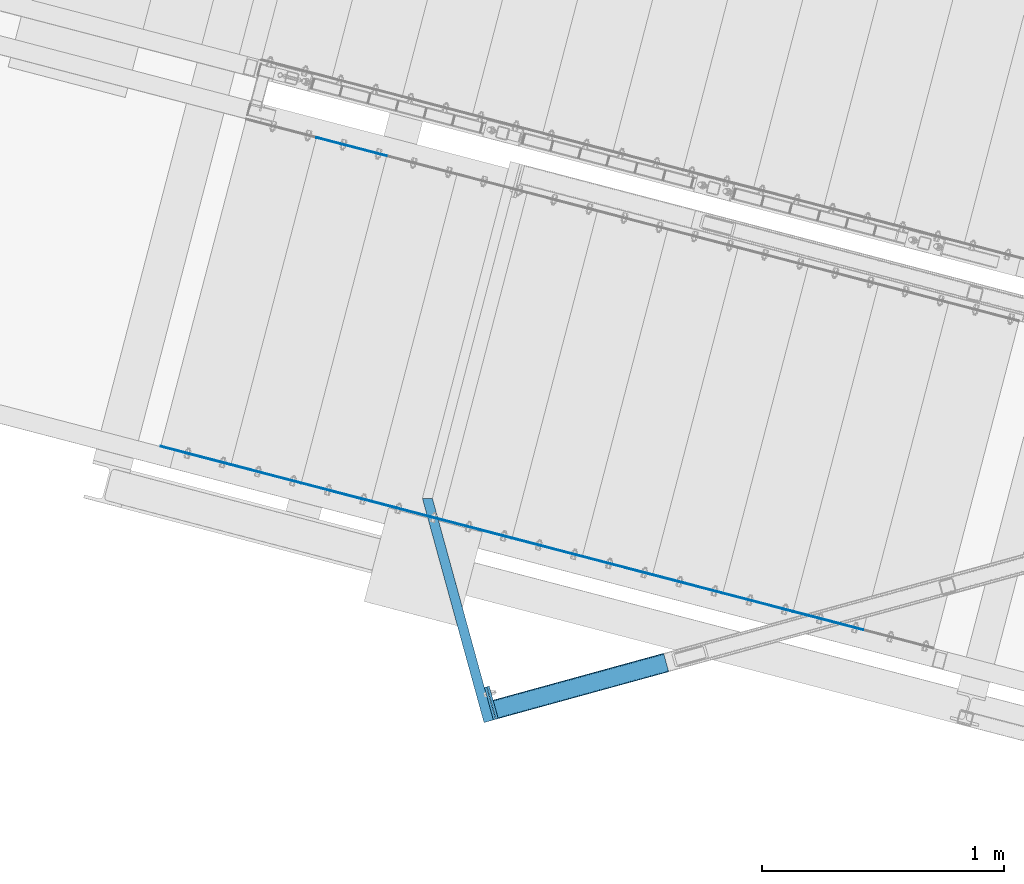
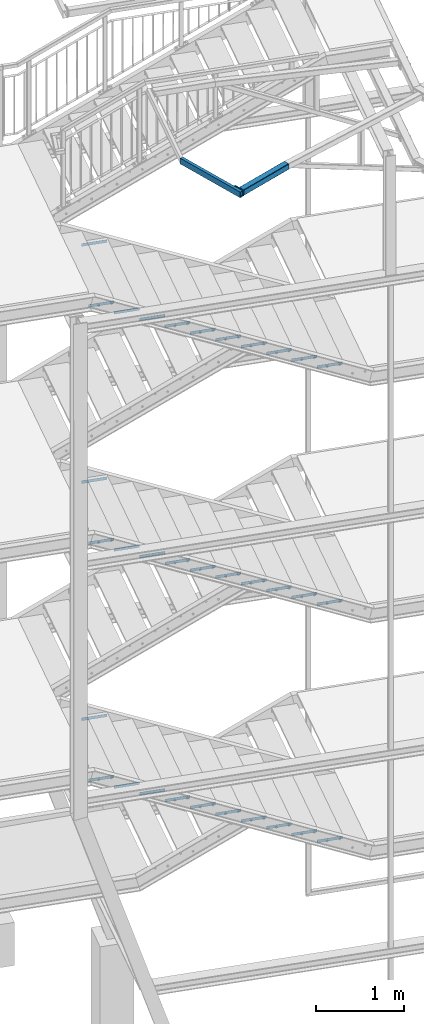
# One storey, part 64 of 169: 37 discrete accessories, 32 elements without a shape of their own.
"""IFC2X3 building model written with IfcOpenShell, lengths in millimetres."""

from ifc_helpers import new_model, si_unit, frame, origin_with_axes, origin_2d_with_axis, place, context, subcontext, project, spatial, polyline, rectangle, hollow_rectangle, u_section, outline, extrude, clip, halfspace, material, type_object, element, aggregate, save


model = new_model("IFC2X3")

# Units and contexts
model_context = context("Model", 3, precision=1e-05, world=origin_with_axes())
body_context = subcontext(model_context, "Body", "Model", "MODEL_VIEW")
ifc_project = project(units=[si_unit("LENGTHUNIT", "METRE", prefix="MILLI"), si_unit("AREAUNIT", "SQUARE_METRE"), si_unit("VOLUMEUNIT", "CUBIC_METRE"), si_unit("MASSUNIT", "GRAM", prefix="KILO"), si_unit("TIMEUNIT", "SECOND"), si_unit("PLANEANGLEUNIT", "RADIAN"), si_unit("SOLIDANGLEUNIT", "STERADIAN"), si_unit("THERMODYNAMICTEMPERATUREUNIT", "DEGREE_CELSIUS"), si_unit("LUMINOUSINTENSITYUNIT", "LUMEN")], contexts=[model_context])

# Site, building, storey
site_placement = place(None, origin_with_axes())
site = spatial("IfcSite", under=ifc_project, at=site_placement, Name="Undefined", CompositionType="ELEMENT")
building_placement = place(site_placement, origin_with_axes())
building = spatial("IfcBuilding", under=site, at=building_placement, Name="Undefined", CompositionType="ELEMENT")
storey_placement = place(building_placement, origin_with_axes())
storey = spatial("IfcBuildingStorey", under=building, at=storey_placement, Name="Undefined", CompositionType="ELEMENT", Elevation=0.0)

# Assembly, discrete accessory
assembly_1_placement = place(storey_placement, origin_with_axes())
assembly_1 = element("IfcElementAssembly", 1, at=assembly_1_placement, inside=storey, Name="Steel Assembly", AssemblyPlace="NOTDEFINED", PredefinedType="RIGID_FRAME")
ifc_material_1 = material(Name="STEEL/S235")
discrete_accessory_type_1 = type_object("IfcDiscreteAccessoryType", Name="BLACHA")
discrete_accessory_1_placement = place(assembly_1_placement, frame((-26964.947239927, 4755.64829046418, 13909.2490473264), z_axis=(0.964246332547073, 0.265007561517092, 5.00827654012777e-05), x_axis=(-1.20319999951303e-05, -0.000145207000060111, 0.999999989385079)))
discrete_accessory_1 = element("IfcDiscreteAccessory", 2, at=discrete_accessory_1_placement, type_object=discrete_accessory_type_1, material=ifc_material_1, Name="BLACHA", ObjectType="BL10*140", context=body_context, shape_type="SweptSolid", body=[
    extrude(outline(polyline([(-1.4915713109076e-10, -69.9999999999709), (1.4915713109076e-10, 69.9999999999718), (79.9999999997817, 69.999999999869), (79.9999999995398, -70.00000000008), (-1.4915713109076e-10, -69.9999999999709)])), frame((-1.81898926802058e-12, -1.18000176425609e-16, -5.00000000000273), z_axis=(0.0, 0.0, 1.0), x_axis=(1.0, 0.0, 0.0)), (0.0, 0.0, 1.0), 10.0),
])

assembly_2_placement = place(storey_placement, origin_with_axes())
assembly_2 = element("IfcElementAssembly", 3, at=assembly_2_placement, inside=storey, Name="Steel Assembly", AssemblyPlace="NOTDEFINED", PredefinedType="RIGID_FRAME")
discrete_accessory_2_placement = place(assembly_2_placement, frame((-26975.5539495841, 4752.7332072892, 13909.2484956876), z_axis=(0.964246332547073, 0.265007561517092, 5.00827654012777e-05), x_axis=(-1.20319999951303e-05, -0.000145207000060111, 0.999999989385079)))
discrete_accessory_2 = element("IfcDiscreteAccessory", 4, at=discrete_accessory_2_placement, type_object=discrete_accessory_type_1, material=ifc_material_1, Name="BLACHA", ObjectType="BL10*140", context=body_context, shape_type="SweptSolid", body=[
    extrude(outline(polyline([(-1.4915713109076e-10, -69.9999999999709), (1.4915713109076e-10, 69.9999999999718), (79.9999999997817, 69.999999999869), (79.9999999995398, -70.00000000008), (-1.4915713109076e-10, -69.9999999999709)])), frame((-1.81898926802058e-12, -1.18000176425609e-16, -5.00000000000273), z_axis=(0.0, 0.0, 1.0), x_axis=(1.0, 0.0, 0.0)), (0.0, 0.0, 1.0), 10.0),
])

# Discrete accessory
discrete_accessory_type_2 = type_object("IfcDiscreteAccessoryType", Name="BEAM")
discrete_accessory_3_placement = place(assembly_1_placement, frame((-26247.8276145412, 4921.62627957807, 13949.2817765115), z_axis=(1.20319999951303e-05, 0.000145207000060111, -0.999999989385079), x_axis=(-0.964243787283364, -0.265016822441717, -5.00832275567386e-05)))
discrete_accessory_3 = element("IfcDiscreteAccessory", 5, at=discrete_accessory_3_placement, type_object=discrete_accessory_type_2, material=ifc_material_1, Name="BEAM", ObjectType="SHS80*4", context=body_context, shape_type="Clipping", body=[
    clip(clip(extrude(hollow_rectangle(XDim=80.0, YDim=80.0, WallThickness=4.0, InnerFilletRadius=4.0, OuterFilletRadius=8.0, at=origin_2d_with_axis()), frame((730.467395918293, -1.72110001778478e-14, 0.0), z_axis=(-1.0, -3.46944695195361e-18, -1.38777878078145e-17), x_axis=(1.73472347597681e-18, -1.0, 0.0)), (0.0, 0.0, 1.0), 771.78), halfspace(frame((730.467395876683, -1.09175744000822e-08, 39.9999999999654), z_axis=(-0.999999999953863, -9.60590435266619e-06, -1.07975465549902e-09), x_axis=(9.60590435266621e-06, -0.999999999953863, -1.12995621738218e-11)), True)), halfspace(frame((1.02154190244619e-05, 0.00025891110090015, -40.0002588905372), z_axis=(-0.999688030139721, -1.62913579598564e-07, 0.0249768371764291), x_axis=(-1.25063525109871e-09, 0.999999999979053, 6.47253026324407e-06)), False)),
])

aggregate(assembly_1, [discrete_accessory_1, discrete_accessory_3])

discrete_accessory_4_placement = place(assembly_2_placement, frame((-27257.5071699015, 5684.29286532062, 13949.2372983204), z_axis=(8.00909999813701e-05, -0.000162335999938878, -0.999999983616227), x_axis=(0.265007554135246, -0.964246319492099, 0.000177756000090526)))
discrete_accessory_4 = element("IfcDiscreteAccessory", 6, at=discrete_accessory_4_placement, type_object=discrete_accessory_type_2, material=ifc_material_1, Name="BEAM", ObjectType="C80*40*3", context=body_context, shape_type="Clipping", body=[
    clip(extrude(u_section(Depth=80.0, FlangeWidth=40.0, WebThickness=3.0, FlangeThickness=3.0, FilletRadius=4.5, at=origin_2d_with_axis()), frame((1043.00000000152, 2.7272355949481e-14, 1.81898940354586e-12), z_axis=(-1.0, -3.46944695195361e-18, -1.38777878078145e-17), x_axis=(1.73472347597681e-18, -1.0, 0.0)), (0.0, 0.0, 1.0), 971.7), halfspace(frame((81.9620872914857, 20.0000000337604, -1.68129190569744e-08), z_axis=(-0.965924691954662, -0.258823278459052, 5.8598698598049e-10), x_axis=(0.0, 0.0, 1.0)), False)),
])

aggregate(assembly_2, [discrete_accessory_2, discrete_accessory_4])

# Assembly, discrete accessory
assembly_3_placement = place(storey_placement, origin_with_axes())
assembly_3 = element("IfcElementAssembly", 7, at=assembly_3_placement, inside=storey, Name="Steel Assembly", AssemblyPlace="NOTDEFINED", PredefinedType="RIGID_FRAME")
ifc_material_2 = material(Name="STEEL/S235JR")
discrete_accessory_type_3 = type_object("IfcDiscreteAccessoryType", Name="ANGLE")
discrete_accessory_5_placement = place(assembly_3_placement, frame((-28045.7217000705, 5739.08517223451, 12180.3215824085), z_axis=(0.252694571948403, 0.967546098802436, 0.0), x_axis=(-0.967546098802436, 0.252694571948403, 0.0)))
discrete_accessory_5 = element("IfcDiscreteAccessory", 8, at=discrete_accessory_5_placement, type_object=discrete_accessory_type_3, material=ifc_material_2, Name="ANGLE", ObjectType="3*40", context=body_context, shape_type="SweptSolid", body=[
    extrude(rectangle(XDim=40.0, YDim=3.0, at=origin_2d_with_axis()), frame((300.000000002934, 1.81898940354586e-12, -1.81898940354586e-12), z_axis=(-1.0, -3.46944695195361e-18, -1.38777878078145e-17), x_axis=(1.73472347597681e-18, -1.0, 0.0)), (0.0, 0.0, 1.0), 300.0),
])
aggregate(assembly_3, [discrete_accessory_5])

# Assembly, discrete accessories
assembly_4_placement = place(storey_placement, origin_with_axes())
assembly_4 = element("IfcElementAssembly", 9, at=assembly_4_placement, inside=storey, Name="Steel Assembly", AssemblyPlace="NOTDEFINED", PredefinedType="RIGID_FRAME")
discrete_accessory_6_placement = place(assembly_4_placement, frame((-27755.4578670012, 5663.27679988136, 12030.3215824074), z_axis=(0.252694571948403, 0.967546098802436, 0.0), x_axis=(-0.967546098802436, 0.252694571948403, 0.0)))
discrete_accessory_6 = element("IfcDiscreteAccessory", 10, at=discrete_accessory_6_placement, type_object=discrete_accessory_type_3, material=ifc_material_2, Name="ANGLE", ObjectType="3*40", context=body_context, shape_type="SweptSolid", body=[
    extrude(rectangle(XDim=40.0, YDim=3.0, at=origin_2d_with_axis()), frame((300.000000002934, 1.81898940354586e-12, -1.81898940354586e-12), z_axis=(-1.0, -3.46944695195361e-18, -1.38777878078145e-17), x_axis=(1.73472347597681e-18, -1.0, 0.0)), (0.0, 0.0, 1.0), 300.0),
])
discrete_accessory_7_placement = place(assembly_4_placement, frame((-27692.7073804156, 7090.74707073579, 12030.3215824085), z_axis=(-0.252694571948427, -0.96754609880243, 0.0), x_axis=(0.96754609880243, -0.252694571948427, 0.0)))
discrete_accessory_7 = element("IfcDiscreteAccessory", 11, at=discrete_accessory_7_placement, type_object=discrete_accessory_type_3, material=ifc_material_2, Name="ANGLE", ObjectType="3*40", context=body_context, shape_type="SweptSolid", body=[
    extrude(rectangle(XDim=40.0, YDim=3.0, at=origin_2d_with_axis()), frame((300.000000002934, 1.81898940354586e-12, -1.81898940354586e-12), z_axis=(-1.0, -3.46944695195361e-18, -1.38777878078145e-17), x_axis=(1.73472347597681e-18, -1.0, 0.0)), (0.0, 0.0, 1.0), 300.0),
])
aggregate(assembly_4, [discrete_accessory_6, discrete_accessory_7])

# Assembly, discrete accessory
assembly_5_placement = place(storey_placement, origin_with_axes())
assembly_5 = element("IfcElementAssembly", 12, at=assembly_5_placement, inside=storey, Name="Steel Assembly", AssemblyPlace="NOTDEFINED", PredefinedType="RIGID_FRAME")
discrete_accessory_8_placement = place(assembly_5_placement, frame((-27465.1940339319, 5587.46842752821, 11880.3215824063), z_axis=(0.252694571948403, 0.967546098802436, 0.0), x_axis=(-0.967546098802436, 0.252694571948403, 0.0)))
discrete_accessory_8 = element("IfcDiscreteAccessory", 13, at=discrete_accessory_8_placement, type_object=discrete_accessory_type_3, material=ifc_material_2, Name="ANGLE", ObjectType="3*40", context=body_context, shape_type="SweptSolid", body=[
    extrude(rectangle(XDim=40.0, YDim=3.0, at=origin_2d_with_axis()), frame((300.000000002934, 1.81898940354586e-12, -1.81898940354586e-12), z_axis=(-1.0, -3.46944695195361e-18, -1.38777878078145e-17), x_axis=(1.73472347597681e-18, -1.0, 0.0)), (0.0, 0.0, 1.0), 300.0),
])
aggregate(assembly_5, [discrete_accessory_8])

assembly_6_placement = place(storey_placement, origin_with_axes())
assembly_6 = element("IfcElementAssembly", 14, at=assembly_6_placement, inside=storey, Name="Steel Assembly", AssemblyPlace="NOTDEFINED", PredefinedType="RIGID_FRAME")
discrete_accessory_9_placement = place(assembly_6_placement, frame((-27174.9302008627, 5511.66005517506, 11730.3215824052), z_axis=(0.252694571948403, 0.967546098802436, 0.0), x_axis=(-0.967546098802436, 0.252694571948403, 0.0)))
discrete_accessory_9 = element("IfcDiscreteAccessory", 15, at=discrete_accessory_9_placement, type_object=discrete_accessory_type_3, material=ifc_material_2, Name="ANGLE", ObjectType="3*40", context=body_context, shape_type="SweptSolid", body=[
    extrude(rectangle(XDim=40.0, YDim=3.0, at=origin_2d_with_axis()), frame((300.000000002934, 1.81898940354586e-12, -1.81898940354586e-12), z_axis=(-1.0, -3.46944695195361e-18, -1.38777878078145e-17), x_axis=(1.73472347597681e-18, -1.0, 0.0)), (0.0, 0.0, 1.0), 300.0),
])
aggregate(assembly_6, [discrete_accessory_9])

assembly_7_placement = place(storey_placement, origin_with_axes())
assembly_7 = element("IfcElementAssembly", 16, at=assembly_7_placement, inside=storey, Name="Steel Assembly", AssemblyPlace="NOTDEFINED", PredefinedType="RIGID_FRAME")
discrete_accessory_10_placement = place(assembly_7_placement, frame((-26884.6663677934, 5435.85168282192, 11580.3215824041), z_axis=(0.252694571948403, 0.967546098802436, 0.0), x_axis=(-0.967546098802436, 0.252694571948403, 0.0)))
discrete_accessory_10 = element("IfcDiscreteAccessory", 17, at=discrete_accessory_10_placement, type_object=discrete_accessory_type_3, material=ifc_material_2, Name="ANGLE", ObjectType="3*40", context=body_context, shape_type="SweptSolid", body=[
    extrude(rectangle(XDim=40.0, YDim=3.0, at=origin_2d_with_axis()), frame((300.000000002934, 1.81898940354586e-12, -1.81898940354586e-12), z_axis=(-1.0, -3.46944695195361e-18, -1.38777878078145e-17), x_axis=(1.73472347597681e-18, -1.0, 0.0)), (0.0, 0.0, 1.0), 300.0),
])
aggregate(assembly_7, [discrete_accessory_10])

assembly_8_placement = place(storey_placement, origin_with_axes())
assembly_8 = element("IfcElementAssembly", 18, at=assembly_8_placement, inside=storey, Name="Steel Assembly", AssemblyPlace="NOTDEFINED", PredefinedType="RIGID_FRAME")
discrete_accessory_11_placement = place(assembly_8_placement, frame((-26594.4025347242, 5360.04331046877, 11430.3215824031), z_axis=(0.252694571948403, 0.967546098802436, 0.0), x_axis=(-0.967546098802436, 0.252694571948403, 0.0)))
discrete_accessory_11 = element("IfcDiscreteAccessory", 19, at=discrete_accessory_11_placement, type_object=discrete_accessory_type_3, material=ifc_material_2, Name="ANGLE", ObjectType="3*40", context=body_context, shape_type="SweptSolid", body=[
    extrude(rectangle(XDim=40.0, YDim=3.0, at=origin_2d_with_axis()), frame((300.000000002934, 1.81898940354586e-12, -1.81898940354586e-12), z_axis=(-1.0, -3.46944695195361e-18, -1.38777878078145e-17), x_axis=(1.73472347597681e-18, -1.0, 0.0)), (0.0, 0.0, 1.0), 300.0),
])
aggregate(assembly_8, [discrete_accessory_11])

assembly_9_placement = place(storey_placement, origin_with_axes())
assembly_9 = element("IfcElementAssembly", 20, at=assembly_9_placement, inside=storey, Name="Steel Assembly", AssemblyPlace="NOTDEFINED", PredefinedType="RIGID_FRAME")
discrete_accessory_12_placement = place(assembly_9_placement, frame((-26304.1387016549, 5284.23493811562, 11280.321582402), z_axis=(0.252694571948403, 0.967546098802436, 0.0), x_axis=(-0.967546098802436, 0.252694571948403, 0.0)))
discrete_accessory_12 = element("IfcDiscreteAccessory", 21, at=discrete_accessory_12_placement, type_object=discrete_accessory_type_3, material=ifc_material_2, Name="ANGLE", ObjectType="3*40", context=body_context, shape_type="SweptSolid", body=[
    extrude(rectangle(XDim=40.0, YDim=3.0, at=origin_2d_with_axis()), frame((300.000000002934, 1.81898940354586e-12, -1.81898940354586e-12), z_axis=(-1.0, -3.46944695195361e-18, -1.38777878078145e-17), x_axis=(1.73472347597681e-18, -1.0, 0.0)), (0.0, 0.0, 1.0), 300.0),
])
aggregate(assembly_9, [discrete_accessory_12])

assembly_10_placement = place(storey_placement, origin_with_axes())
assembly_10 = element("IfcElementAssembly", 22, at=assembly_10_placement, inside=storey, Name="Steel Assembly", AssemblyPlace="NOTDEFINED", PredefinedType="RIGID_FRAME")
discrete_accessory_13_placement = place(assembly_10_placement, frame((-26013.8748685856, 5208.42656576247, 11130.3215824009), z_axis=(0.252694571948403, 0.967546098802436, 0.0), x_axis=(-0.967546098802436, 0.252694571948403, 0.0)))
discrete_accessory_13 = element("IfcDiscreteAccessory", 23, at=discrete_accessory_13_placement, type_object=discrete_accessory_type_3, material=ifc_material_2, Name="ANGLE", ObjectType="3*40", context=body_context, shape_type="SweptSolid", body=[
    extrude(rectangle(XDim=40.0, YDim=3.0, at=origin_2d_with_axis()), frame((300.000000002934, 1.81898940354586e-12, -1.81898940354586e-12), z_axis=(-1.0, -3.46944695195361e-18, -1.38777878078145e-17), x_axis=(1.73472347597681e-18, -1.0, 0.0)), (0.0, 0.0, 1.0), 300.0),
])
aggregate(assembly_10, [discrete_accessory_13])

assembly_11_placement = place(storey_placement, origin_with_axes())
assembly_11 = element("IfcElementAssembly", 24, at=assembly_11_placement, inside=storey, Name="Steel Assembly", AssemblyPlace="NOTDEFINED", PredefinedType="RIGID_FRAME")
discrete_accessory_14_placement = place(assembly_11_placement, frame((-25723.6110355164, 5132.61819340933, 10980.3215823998), z_axis=(0.252694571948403, 0.967546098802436, 0.0), x_axis=(-0.967546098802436, 0.252694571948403, 0.0)))
discrete_accessory_14 = element("IfcDiscreteAccessory", 25, at=discrete_accessory_14_placement, type_object=discrete_accessory_type_3, material=ifc_material_2, Name="ANGLE", ObjectType="3*40", context=body_context, shape_type="SweptSolid", body=[
    extrude(rectangle(XDim=40.0, YDim=3.0, at=origin_2d_with_axis()), frame((300.000000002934, 1.81898940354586e-12, -1.81898940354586e-12), z_axis=(-1.0, -3.46944695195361e-18, -1.38777878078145e-17), x_axis=(1.73472347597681e-18, -1.0, 0.0)), (0.0, 0.0, 1.0), 300.0),
])
aggregate(assembly_11, [discrete_accessory_14])

assembly_12_placement = place(storey_placement, origin_with_axes())
assembly_12 = element("IfcElementAssembly", 26, at=assembly_12_placement, inside=storey, Name="Steel Assembly", AssemblyPlace="NOTDEFINED", PredefinedType="RIGID_FRAME")
discrete_accessory_15_placement = place(assembly_12_placement, frame((-25433.3472024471, 5056.80982105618, 10830.3215823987), z_axis=(0.252694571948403, 0.967546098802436, 0.0), x_axis=(-0.967546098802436, 0.252694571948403, 0.0)))
discrete_accessory_15 = element("IfcDiscreteAccessory", 27, at=discrete_accessory_15_placement, type_object=discrete_accessory_type_3, material=ifc_material_2, Name="ANGLE", ObjectType="3*40", context=body_context, shape_type="SweptSolid", body=[
    extrude(rectangle(XDim=40.0, YDim=3.0, at=origin_2d_with_axis()), frame((300.000000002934, 1.81898940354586e-12, -1.81898940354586e-12), z_axis=(-1.0, -3.46944695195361e-18, -1.38777878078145e-17), x_axis=(1.73472347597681e-18, -1.0, 0.0)), (0.0, 0.0, 1.0), 300.0),
])
aggregate(assembly_12, [discrete_accessory_15])

assembly_13_placement = place(storey_placement, origin_with_axes())
assembly_13 = element("IfcElementAssembly", 28, at=assembly_13_placement, inside=storey, Name="Steel Assembly", AssemblyPlace="NOTDEFINED", PredefinedType="RIGID_FRAME")
discrete_accessory_16_placement = place(assembly_13_placement, frame((-28045.8357774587, 5738.64825725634, 8880.3216133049), z_axis=(0.252694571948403, 0.967546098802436, 0.0), x_axis=(-0.967546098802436, 0.252694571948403, 0.0)))
discrete_accessory_16 = element("IfcDiscreteAccessory", 29, at=discrete_accessory_16_placement, type_object=discrete_accessory_type_3, material=ifc_material_2, Name="ANGLE", ObjectType="3*40", context=body_context, shape_type="SweptSolid", body=[
    extrude(rectangle(XDim=40.0, YDim=3.0, at=origin_2d_with_axis()), frame((300.000000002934, 1.81898940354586e-12, -1.81898940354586e-12), z_axis=(-1.0, -3.46944695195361e-18, -1.38777878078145e-17), x_axis=(1.73472347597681e-18, -1.0, 0.0)), (0.0, 0.0, 1.0), 300.0),
])
aggregate(assembly_13, [discrete_accessory_16])

# Assembly, discrete accessories
assembly_14_placement = place(storey_placement, origin_with_axes())
assembly_14 = element("IfcElementAssembly", 30, at=assembly_14_placement, inside=storey, Name="Steel Assembly", AssemblyPlace="NOTDEFINED", PredefinedType="RIGID_FRAME")
discrete_accessory_17_placement = place(assembly_14_placement, frame((-27755.5719443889, 5662.83988490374, 8730.32161330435), z_axis=(0.252694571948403, 0.967546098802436, 0.0), x_axis=(-0.967546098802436, 0.252694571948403, 0.0)))
discrete_accessory_17 = element("IfcDiscreteAccessory", 31, at=discrete_accessory_17_placement, type_object=discrete_accessory_type_3, material=ifc_material_2, Name="ANGLE", ObjectType="3*40", context=body_context, shape_type="SweptSolid", body=[
    extrude(rectangle(XDim=40.0, YDim=3.0, at=origin_2d_with_axis()), frame((300.000000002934, 1.81898940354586e-12, -1.81898940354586e-12), z_axis=(-1.0, -3.46944695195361e-18, -1.38777878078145e-17), x_axis=(1.73472347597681e-18, -1.0, 0.0)), (0.0, 0.0, 1.0), 300.0),
])
discrete_accessory_18_placement = place(assembly_14_placement, frame((-27692.8214578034, 7090.31015577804, 8730.32161330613), z_axis=(-0.252694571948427, -0.96754609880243, 0.0), x_axis=(0.96754609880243, -0.252694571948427, 0.0)))
discrete_accessory_18 = element("IfcDiscreteAccessory", 32, at=discrete_accessory_18_placement, type_object=discrete_accessory_type_3, material=ifc_material_2, Name="ANGLE", ObjectType="3*40", context=body_context, shape_type="SweptSolid", body=[
    extrude(rectangle(XDim=40.0, YDim=3.0, at=origin_2d_with_axis()), frame((300.000000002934, 1.81898940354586e-12, -1.81898940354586e-12), z_axis=(-1.0, -3.46944695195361e-18, -1.38777878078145e-17), x_axis=(1.73472347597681e-18, -1.0, 0.0)), (0.0, 0.0, 1.0), 300.0),
])
aggregate(assembly_14, [discrete_accessory_17, discrete_accessory_18])

# Assembly, discrete accessory
assembly_15_placement = place(storey_placement, origin_with_axes())
assembly_15 = element("IfcElementAssembly", 33, at=assembly_15_placement, inside=storey, Name="Steel Assembly", AssemblyPlace="NOTDEFINED", PredefinedType="RIGID_FRAME")
discrete_accessory_19_placement = place(assembly_15_placement, frame((-27465.3081113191, 5587.03151255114, 8580.32161330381), z_axis=(0.252694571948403, 0.967546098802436, 0.0), x_axis=(-0.967546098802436, 0.252694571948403, 0.0)))
discrete_accessory_19 = element("IfcDiscreteAccessory", 34, at=discrete_accessory_19_placement, type_object=discrete_accessory_type_3, material=ifc_material_2, Name="ANGLE", ObjectType="3*40", context=body_context, shape_type="SweptSolid", body=[
    extrude(rectangle(XDim=40.0, YDim=3.0, at=origin_2d_with_axis()), frame((300.000000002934, 1.81898940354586e-12, -1.81898940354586e-12), z_axis=(-1.0, -3.46944695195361e-18, -1.38777878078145e-17), x_axis=(1.73472347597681e-18, -1.0, 0.0)), (0.0, 0.0, 1.0), 300.0),
])
aggregate(assembly_15, [discrete_accessory_19])

assembly_16_placement = place(storey_placement, origin_with_axes())
assembly_16 = element("IfcElementAssembly", 35, at=assembly_16_placement, inside=storey, Name="Steel Assembly", AssemblyPlace="NOTDEFINED", PredefinedType="RIGID_FRAME")
discrete_accessory_20_placement = place(assembly_16_placement, frame((-27175.0442782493, 5511.22314019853, 8430.32161330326), z_axis=(0.252694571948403, 0.967546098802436, 0.0), x_axis=(-0.967546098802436, 0.252694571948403, 0.0)))
discrete_accessory_20 = element("IfcDiscreteAccessory", 36, at=discrete_accessory_20_placement, type_object=discrete_accessory_type_3, material=ifc_material_2, Name="ANGLE", ObjectType="3*40", context=body_context, shape_type="SweptSolid", body=[
    extrude(rectangle(XDim=40.0, YDim=3.0, at=origin_2d_with_axis()), frame((300.000000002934, 1.81898940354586e-12, -1.81898940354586e-12), z_axis=(-1.0, -3.46944695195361e-18, -1.38777878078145e-17), x_axis=(1.73472347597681e-18, -1.0, 0.0)), (0.0, 0.0, 1.0), 300.0),
])
aggregate(assembly_16, [discrete_accessory_20])

assembly_17_placement = place(storey_placement, origin_with_axes())
assembly_17 = element("IfcElementAssembly", 37, at=assembly_17_placement, inside=storey, Name="Steel Assembly", AssemblyPlace="NOTDEFINED", PredefinedType="RIGID_FRAME")
discrete_accessory_21_placement = place(assembly_17_placement, frame((-26884.7804451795, 5435.41476784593, 8280.32161330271), z_axis=(0.252694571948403, 0.967546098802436, 0.0), x_axis=(-0.967546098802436, 0.252694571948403, 0.0)))
discrete_accessory_21 = element("IfcDiscreteAccessory", 38, at=discrete_accessory_21_placement, type_object=discrete_accessory_type_3, material=ifc_material_2, Name="ANGLE", ObjectType="3*40", context=body_context, shape_type="SweptSolid", body=[
    extrude(rectangle(XDim=40.0, YDim=3.0, at=origin_2d_with_axis()), frame((300.000000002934, 1.81898940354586e-12, -1.81898940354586e-12), z_axis=(-1.0, -3.46944695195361e-18, -1.38777878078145e-17), x_axis=(1.73472347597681e-18, -1.0, 0.0)), (0.0, 0.0, 1.0), 300.0),
])
aggregate(assembly_17, [discrete_accessory_21])

assembly_18_placement = place(storey_placement, origin_with_axes())
assembly_18 = element("IfcElementAssembly", 39, at=assembly_18_placement, inside=storey, Name="Steel Assembly", AssemblyPlace="NOTDEFINED", PredefinedType="RIGID_FRAME")
discrete_accessory_22_placement = place(assembly_18_placement, frame((-26594.5166121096, 5359.60639549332, 8130.32161330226), z_axis=(0.252694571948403, 0.967546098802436, 0.0), x_axis=(-0.967546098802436, 0.252694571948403, 0.0)))
discrete_accessory_22 = element("IfcDiscreteAccessory", 40, at=discrete_accessory_22_placement, type_object=discrete_accessory_type_3, material=ifc_material_2, Name="ANGLE", ObjectType="3*40", context=body_context, shape_type="SweptSolid", body=[
    extrude(rectangle(XDim=40.0, YDim=3.0, at=origin_2d_with_axis()), frame((300.000000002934, 1.81898940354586e-12, -1.81898940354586e-12), z_axis=(-1.0, -3.46944695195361e-18, -1.38777878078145e-17), x_axis=(1.73472347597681e-18, -1.0, 0.0)), (0.0, 0.0, 1.0), 300.0),
])
aggregate(assembly_18, [discrete_accessory_22])

assembly_19_placement = place(storey_placement, origin_with_axes())
assembly_19 = element("IfcElementAssembly", 41, at=assembly_19_placement, inside=storey, Name="Steel Assembly", AssemblyPlace="NOTDEFINED", PredefinedType="RIGID_FRAME")
discrete_accessory_23_placement = place(assembly_19_placement, frame((-26304.2527790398, 5283.79802314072, 7980.32161330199), z_axis=(0.252694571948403, 0.967546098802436, 0.0), x_axis=(-0.967546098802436, 0.252694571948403, 0.0)))
discrete_accessory_23 = element("IfcDiscreteAccessory", 42, at=discrete_accessory_23_placement, type_object=discrete_accessory_type_3, material=ifc_material_2, Name="ANGLE", ObjectType="3*40", context=body_context, shape_type="SweptSolid", body=[
    extrude(rectangle(XDim=40.0, YDim=3.0, at=origin_2d_with_axis()), frame((300.000000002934, 1.81898940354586e-12, -1.81898940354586e-12), z_axis=(-1.0, -3.46944695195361e-18, -1.38777878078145e-17), x_axis=(1.73472347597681e-18, -1.0, 0.0)), (0.0, 0.0, 1.0), 300.0),
])
aggregate(assembly_19, [discrete_accessory_23])

assembly_20_placement = place(storey_placement, origin_with_axes())
assembly_20 = element("IfcElementAssembly", 43, at=assembly_20_placement, inside=storey, Name="Steel Assembly", AssemblyPlace="NOTDEFINED", PredefinedType="RIGID_FRAME")
discrete_accessory_24_placement = place(assembly_20_placement, frame((-26013.98894597, 5207.98965078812, 7830.32161330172), z_axis=(0.252694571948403, 0.967546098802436, 0.0), x_axis=(-0.967546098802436, 0.252694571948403, 0.0)))
discrete_accessory_24 = element("IfcDiscreteAccessory", 44, at=discrete_accessory_24_placement, type_object=discrete_accessory_type_3, material=ifc_material_2, Name="ANGLE", ObjectType="3*40", context=body_context, shape_type="SweptSolid", body=[
    extrude(rectangle(XDim=40.0, YDim=3.0, at=origin_2d_with_axis()), frame((300.000000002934, 1.81898940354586e-12, -1.81898940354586e-12), z_axis=(-1.0, -3.46944695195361e-18, -1.38777878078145e-17), x_axis=(1.73472347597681e-18, -1.0, 0.0)), (0.0, 0.0, 1.0), 300.0),
])
aggregate(assembly_20, [discrete_accessory_24])

assembly_21_placement = place(storey_placement, origin_with_axes())
assembly_21 = element("IfcElementAssembly", 45, at=assembly_21_placement, inside=storey, Name="Steel Assembly", AssemblyPlace="NOTDEFINED", PredefinedType="RIGID_FRAME")
discrete_accessory_25_placement = place(assembly_21_placement, frame((-25723.7251129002, 5132.18127843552, 7680.32161330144), z_axis=(0.252694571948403, 0.967546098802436, 0.0), x_axis=(-0.967546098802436, 0.252694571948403, 0.0)))
discrete_accessory_25 = element("IfcDiscreteAccessory", 46, at=discrete_accessory_25_placement, type_object=discrete_accessory_type_3, material=ifc_material_2, Name="ANGLE", ObjectType="3*40", context=body_context, shape_type="SweptSolid", body=[
    extrude(rectangle(XDim=40.0, YDim=3.0, at=origin_2d_with_axis()), frame((300.000000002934, 1.81898940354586e-12, -1.81898940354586e-12), z_axis=(-1.0, -3.46944695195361e-18, -1.38777878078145e-17), x_axis=(1.73472347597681e-18, -1.0, 0.0)), (0.0, 0.0, 1.0), 300.0),
])
aggregate(assembly_21, [discrete_accessory_25])

assembly_22_placement = place(storey_placement, origin_with_axes())
assembly_22 = element("IfcElementAssembly", 47, at=assembly_22_placement, inside=storey, Name="Steel Assembly", AssemblyPlace="NOTDEFINED", PredefinedType="RIGID_FRAME")
discrete_accessory_26_placement = place(assembly_22_placement, frame((-25433.4612798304, 5056.37290608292, 7530.32161330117), z_axis=(0.252694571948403, 0.967546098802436, 0.0), x_axis=(-0.967546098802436, 0.252694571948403, 0.0)))
discrete_accessory_26 = element("IfcDiscreteAccessory", 48, at=discrete_accessory_26_placement, type_object=discrete_accessory_type_3, material=ifc_material_2, Name="ANGLE", ObjectType="3*40", context=body_context, shape_type="SweptSolid", body=[
    extrude(rectangle(XDim=40.0, YDim=3.0, at=origin_2d_with_axis()), frame((300.000000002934, 1.81898940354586e-12, -1.81898940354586e-12), z_axis=(-1.0, -3.46944695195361e-18, -1.38777878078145e-17), x_axis=(1.73472347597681e-18, -1.0, 0.0)), (0.0, 0.0, 1.0), 300.0),
])
aggregate(assembly_22, [discrete_accessory_26])

assembly_23_placement = place(storey_placement, origin_with_axes())
assembly_23 = element("IfcElementAssembly", 49, at=assembly_23_placement, inside=storey, Name="Steel Assembly", AssemblyPlace="NOTDEFINED", PredefinedType="RIGID_FRAME")
discrete_accessory_27_placement = place(assembly_23_placement, frame((-28045.9498548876, 5738.21134233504, 5580.32164420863), z_axis=(0.252694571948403, 0.967546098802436, 0.0), x_axis=(-0.967546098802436, 0.252694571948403, 0.0)))
discrete_accessory_27 = element("IfcDiscreteAccessory", 50, at=discrete_accessory_27_placement, type_object=discrete_accessory_type_3, material=ifc_material_2, Name="ANGLE", ObjectType="3*40", context=body_context, shape_type="SweptSolid", body=[
    extrude(rectangle(XDim=40.0, YDim=3.0, at=origin_2d_with_axis()), frame((300.000000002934, 1.81898940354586e-12, -1.81898940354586e-12), z_axis=(-1.0, -3.46944695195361e-18, -1.38777878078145e-17), x_axis=(1.73472347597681e-18, -1.0, 0.0)), (0.0, 0.0, 1.0), 300.0),
])
aggregate(assembly_23, [discrete_accessory_27])

# Assembly, discrete accessories
assembly_24_placement = place(storey_placement, origin_with_axes())
assembly_24 = element("IfcElementAssembly", 51, at=assembly_24_placement, inside=storey, Name="Steel Assembly", AssemblyPlace="NOTDEFINED", PredefinedType="RIGID_FRAME")
discrete_accessory_28_placement = place(assembly_24_placement, frame((-27755.686021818, 5662.40296998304, 5430.32164420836), z_axis=(0.252694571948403, 0.967546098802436, 0.0), x_axis=(-0.967546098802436, 0.252694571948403, 0.0)))
discrete_accessory_28 = element("IfcDiscreteAccessory", 52, at=discrete_accessory_28_placement, type_object=discrete_accessory_type_3, material=ifc_material_2, Name="ANGLE", ObjectType="3*40", context=body_context, shape_type="SweptSolid", body=[
    extrude(rectangle(XDim=40.0, YDim=3.0, at=origin_2d_with_axis()), frame((300.000000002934, 1.81898940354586e-12, -1.81898940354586e-12), z_axis=(-1.0, -3.46944695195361e-18, -1.38777878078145e-17), x_axis=(1.73472347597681e-18, -1.0, 0.0)), (0.0, 0.0, 1.0), 300.0),
])
discrete_accessory_29_placement = place(assembly_24_placement, frame((-27692.935535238, 7089.87324083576, 5430.32164420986), z_axis=(-0.252694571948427, -0.96754609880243, 0.0), x_axis=(0.96754609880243, -0.252694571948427, 0.0)))
discrete_accessory_29 = element("IfcDiscreteAccessory", 53, at=discrete_accessory_29_placement, type_object=discrete_accessory_type_3, material=ifc_material_2, Name="ANGLE", ObjectType="3*40", context=body_context, shape_type="SweptSolid", body=[
    extrude(rectangle(XDim=40.0, YDim=3.0, at=origin_2d_with_axis()), frame((300.000000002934, 1.81898940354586e-12, -1.81898940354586e-12), z_axis=(-1.0, -3.46944695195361e-18, -1.38777878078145e-17), x_axis=(1.73472347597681e-18, -1.0, 0.0)), (0.0, 0.0, 1.0), 300.0),
])
aggregate(assembly_24, [discrete_accessory_28, discrete_accessory_29])

# Assembly, discrete accessory
assembly_25_placement = place(storey_placement, origin_with_axes())
assembly_25 = element("IfcElementAssembly", 54, at=assembly_25_placement, inside=storey, Name="Steel Assembly", AssemblyPlace="NOTDEFINED", PredefinedType="RIGID_FRAME")
discrete_accessory_30_placement = place(assembly_25_placement, frame((-27465.4221887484, 5586.59459763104, 5280.32164420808), z_axis=(0.252694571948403, 0.967546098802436, 0.0), x_axis=(-0.967546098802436, 0.252694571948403, 0.0)))
discrete_accessory_30 = element("IfcDiscreteAccessory", 55, at=discrete_accessory_30_placement, type_object=discrete_accessory_type_3, material=ifc_material_2, Name="ANGLE", ObjectType="3*40", context=body_context, shape_type="SweptSolid", body=[
    extrude(rectangle(XDim=40.0, YDim=3.0, at=origin_2d_with_axis()), frame((300.000000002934, 1.81898940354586e-12, -1.81898940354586e-12), z_axis=(-1.0, -3.46944695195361e-18, -1.38777878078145e-17), x_axis=(1.73472347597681e-18, -1.0, 0.0)), (0.0, 0.0, 1.0), 300.0),
])
aggregate(assembly_25, [discrete_accessory_30])

assembly_26_placement = place(storey_placement, origin_with_axes())
assembly_26 = element("IfcElementAssembly", 56, at=assembly_26_placement, inside=storey, Name="Steel Assembly", AssemblyPlace="NOTDEFINED", PredefinedType="RIGID_FRAME")
discrete_accessory_31_placement = place(assembly_26_placement, frame((-27175.1583556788, 5510.78622527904, 5130.32164420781), z_axis=(0.252694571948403, 0.967546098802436, 0.0), x_axis=(-0.967546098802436, 0.252694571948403, 0.0)))
discrete_accessory_31 = element("IfcDiscreteAccessory", 57, at=discrete_accessory_31_placement, type_object=discrete_accessory_type_3, material=ifc_material_2, Name="ANGLE", ObjectType="3*40", context=body_context, shape_type="SweptSolid", body=[
    extrude(rectangle(XDim=40.0, YDim=3.0, at=origin_2d_with_axis()), frame((300.000000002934, 1.81898940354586e-12, -1.81898940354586e-12), z_axis=(-1.0, -3.46944695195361e-18, -1.38777878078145e-17), x_axis=(1.73472347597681e-18, -1.0, 0.0)), (0.0, 0.0, 1.0), 300.0),
])
aggregate(assembly_26, [discrete_accessory_31])

assembly_27_placement = place(storey_placement, origin_with_axes())
assembly_27 = element("IfcElementAssembly", 58, at=assembly_27_placement, inside=storey, Name="Steel Assembly", AssemblyPlace="NOTDEFINED", PredefinedType="RIGID_FRAME")
discrete_accessory_32_placement = place(assembly_27_placement, frame((-26884.8945226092, 5434.97785292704, 4980.32164420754), z_axis=(0.252694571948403, 0.967546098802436, 0.0), x_axis=(-0.967546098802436, 0.252694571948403, 0.0)))
discrete_accessory_32 = element("IfcDiscreteAccessory", 59, at=discrete_accessory_32_placement, type_object=discrete_accessory_type_3, material=ifc_material_2, Name="ANGLE", ObjectType="3*40", context=body_context, shape_type="SweptSolid", body=[
    extrude(rectangle(XDim=40.0, YDim=3.0, at=origin_2d_with_axis()), frame((300.000000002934, 1.81898940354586e-12, -1.81898940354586e-12), z_axis=(-1.0, -3.46944695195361e-18, -1.38777878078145e-17), x_axis=(1.73472347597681e-18, -1.0, 0.0)), (0.0, 0.0, 1.0), 300.0),
])
aggregate(assembly_27, [discrete_accessory_32])

assembly_28_placement = place(storey_placement, origin_with_axes())
assembly_28 = element("IfcElementAssembly", 60, at=assembly_28_placement, inside=storey, Name="Steel Assembly", AssemblyPlace="NOTDEFINED", PredefinedType="RIGID_FRAME")
discrete_accessory_33_placement = place(assembly_28_placement, frame((-26594.6306895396, 5359.16948057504, 4830.32164420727), z_axis=(0.252694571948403, 0.967546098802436, 0.0), x_axis=(-0.967546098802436, 0.252694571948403, 0.0)))
discrete_accessory_33 = element("IfcDiscreteAccessory", 61, at=discrete_accessory_33_placement, type_object=discrete_accessory_type_3, material=ifc_material_2, Name="ANGLE", ObjectType="3*40", context=body_context, shape_type="SweptSolid", body=[
    extrude(rectangle(XDim=40.0, YDim=3.0, at=origin_2d_with_axis()), frame((300.000000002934, 1.81898940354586e-12, -1.81898940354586e-12), z_axis=(-1.0, -3.46944695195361e-18, -1.38777878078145e-17), x_axis=(1.73472347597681e-18, -1.0, 0.0)), (0.0, 0.0, 1.0), 300.0),
])
aggregate(assembly_28, [discrete_accessory_33])

assembly_29_placement = place(storey_placement, origin_with_axes())
assembly_29 = element("IfcElementAssembly", 62, at=assembly_29_placement, inside=storey, Name="Steel Assembly", AssemblyPlace="NOTDEFINED", PredefinedType="RIGID_FRAME")
discrete_accessory_34_placement = place(assembly_29_placement, frame((-26304.36685647, 5283.36110822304, 4680.32164420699), z_axis=(0.252694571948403, 0.967546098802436, 0.0), x_axis=(-0.967546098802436, 0.252694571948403, 0.0)))
discrete_accessory_34 = element("IfcDiscreteAccessory", 63, at=discrete_accessory_34_placement, type_object=discrete_accessory_type_3, material=ifc_material_2, Name="ANGLE", ObjectType="3*40", context=body_context, shape_type="SweptSolid", body=[
    extrude(rectangle(XDim=40.0, YDim=3.0, at=origin_2d_with_axis()), frame((300.000000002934, 1.81898940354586e-12, -1.81898940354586e-12), z_axis=(-1.0, -3.46944695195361e-18, -1.38777878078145e-17), x_axis=(1.73472347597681e-18, -1.0, 0.0)), (0.0, 0.0, 1.0), 300.0),
])
aggregate(assembly_29, [discrete_accessory_34])

assembly_30_placement = place(storey_placement, origin_with_axes())
assembly_30 = element("IfcElementAssembly", 64, at=assembly_30_placement, inside=storey, Name="Steel Assembly", AssemblyPlace="NOTDEFINED", PredefinedType="RIGID_FRAME")
discrete_accessory_35_placement = place(assembly_30_placement, frame((-26014.1030234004, 5207.55273587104, 4530.32164420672), z_axis=(0.252694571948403, 0.967546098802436, 0.0), x_axis=(-0.967546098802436, 0.252694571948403, 0.0)))
discrete_accessory_35 = element("IfcDiscreteAccessory", 65, at=discrete_accessory_35_placement, type_object=discrete_accessory_type_3, material=ifc_material_2, Name="ANGLE", ObjectType="3*40", context=body_context, shape_type="SweptSolid", body=[
    extrude(rectangle(XDim=40.0, YDim=3.0, at=origin_2d_with_axis()), frame((300.000000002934, 1.81898940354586e-12, -1.81898940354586e-12), z_axis=(-1.0, -3.46944695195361e-18, -1.38777878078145e-17), x_axis=(1.73472347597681e-18, -1.0, 0.0)), (0.0, 0.0, 1.0), 300.0),
])
aggregate(assembly_30, [discrete_accessory_35])

assembly_31_placement = place(storey_placement, origin_with_axes())
assembly_31 = element("IfcElementAssembly", 66, at=assembly_31_placement, inside=storey, Name="Steel Assembly", AssemblyPlace="NOTDEFINED", PredefinedType="RIGID_FRAME")
discrete_accessory_36_placement = place(assembly_31_placement, frame((-25723.8391903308, 5131.74436351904, 4380.32164420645), z_axis=(0.252694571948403, 0.967546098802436, 0.0), x_axis=(-0.967546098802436, 0.252694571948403, 0.0)))
discrete_accessory_36 = element("IfcDiscreteAccessory", 67, at=discrete_accessory_36_placement, type_object=discrete_accessory_type_3, material=ifc_material_2, Name="ANGLE", ObjectType="3*40", context=body_context, shape_type="SweptSolid", body=[
    extrude(rectangle(XDim=40.0, YDim=3.0, at=origin_2d_with_axis()), frame((300.000000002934, 1.81898940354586e-12, -1.81898940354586e-12), z_axis=(-1.0, -3.46944695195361e-18, -1.38777878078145e-17), x_axis=(1.73472347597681e-18, -1.0, 0.0)), (0.0, 0.0, 1.0), 300.0),
])
aggregate(assembly_31, [discrete_accessory_36])

assembly_32_placement = place(storey_placement, origin_with_axes())
assembly_32 = element("IfcElementAssembly", 68, at=assembly_32_placement, inside=storey, Name="Steel Assembly", AssemblyPlace="NOTDEFINED", PredefinedType="RIGID_FRAME")
discrete_accessory_37_placement = place(assembly_32_placement, frame((-25433.5753572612, 5055.93599116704, 4230.32164420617), z_axis=(0.252694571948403, 0.967546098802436, 0.0), x_axis=(-0.967546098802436, 0.252694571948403, 0.0)))
discrete_accessory_37 = element("IfcDiscreteAccessory", 69, at=discrete_accessory_37_placement, type_object=discrete_accessory_type_3, material=ifc_material_2, Name="ANGLE", ObjectType="3*40", context=body_context, shape_type="SweptSolid", body=[
    extrude(rectangle(XDim=40.0, YDim=3.0, at=origin_2d_with_axis()), frame((300.000000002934, 1.81898940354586e-12, -1.81898940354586e-12), z_axis=(-1.0, -3.46944695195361e-18, -1.38777878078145e-17), x_axis=(1.73472347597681e-18, -1.0, 0.0)), (0.0, 0.0, 1.0), 300.0),
])
aggregate(assembly_32, [discrete_accessory_37])

save(model, "model.ifc")
